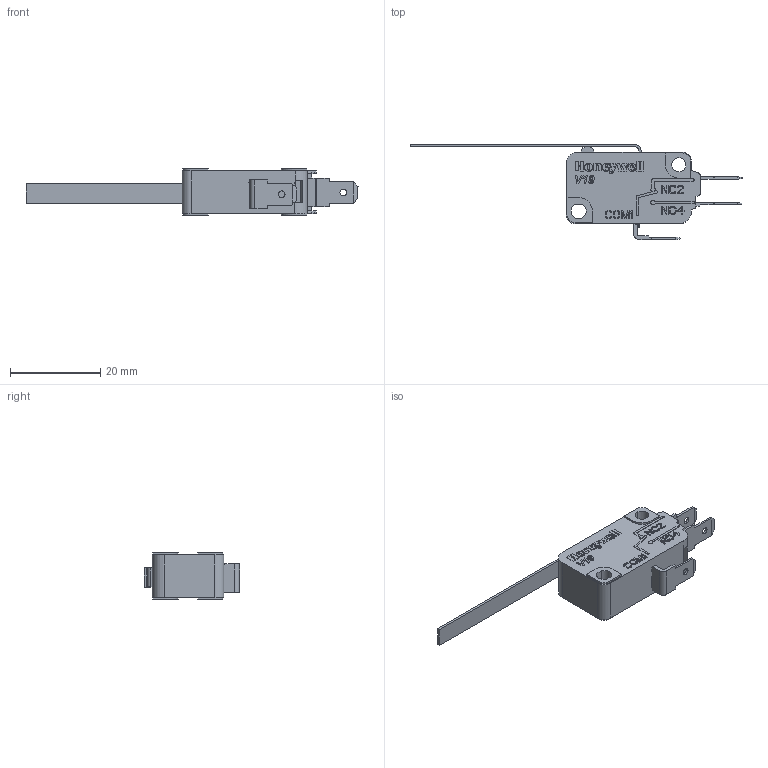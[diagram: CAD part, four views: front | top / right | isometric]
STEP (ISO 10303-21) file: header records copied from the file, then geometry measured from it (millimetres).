
FILE_DESCRIPTION((''),'2;1');
FILE_NAME('V19T16-EP200A03','2020-06-15T17:11:27',('H252115'),(''),'CREO PARAMETRIC BY PTC INC, 2017380','CREO PARAMETRIC BY PTC INC, 2017380','');
FILE_SCHEMA(('CONFIG_CONTROL_DESIGN'));
Length unit declared in the file: millimetre
Products named in the file (1): V19T16-EP200A03
Bounding box: 73.59 x 21.1 x 10.2 mm (x, y, z)
Volume: 4251.9 mm3; surface area: 2933.9 mm2
Topology: 1 solids, 1 shells, 710 faces, 2015 edges, 1344 vertices
Faces by surface type: plane 532, extrusion 101, cylinder 70, torus 5, bspline 2
Entity records: 25348 total; most frequent: CARTESIAN_POINT 7056, ORIENTED_EDGE 4030, DIRECTION 3286, EDGE_CURVE 2015, VECTOR 1736, LINE 1635, VERTEX_POINT 1344, AXIS2_PLACEMENT_3D 775
